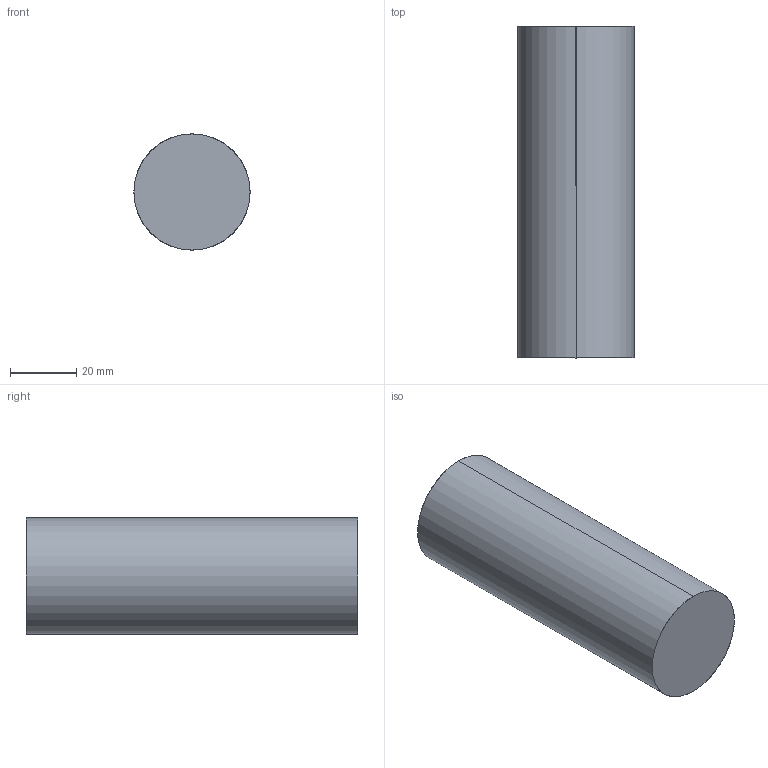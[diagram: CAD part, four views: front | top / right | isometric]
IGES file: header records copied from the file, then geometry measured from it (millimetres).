
Start section: SolidWorks IGES file using analytic representation for surfaces
Global section: file name: C:\Users\adrian\Desktop\AROA\diseño nuevo producto\tecnico\TALE T0339\T0339.IGS; native system: SolidWorks 2023; preprocessor: SolidWorks 2023; author: adrian; date: 260828.114353; units: millimetre
Bounding box: 35 x 100 x 35 mm (x, y, z)
Surface area: 13424.4 mm2 (no closed solid volume)
Topology: 0 solids, 0 shells, 9 faces, 248 edges, 248 vertices
Faces by surface type: bspline 5, revolution 4
